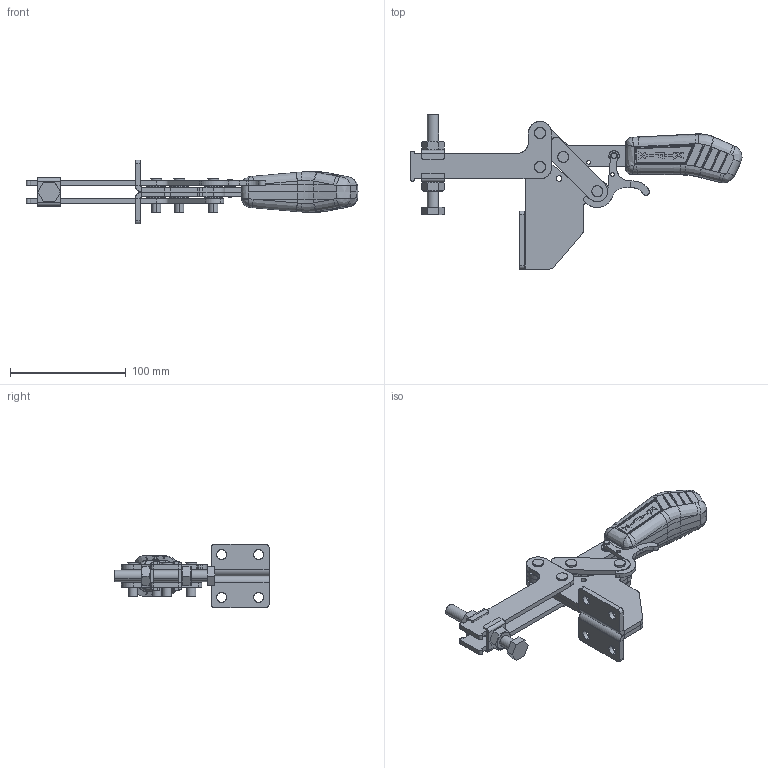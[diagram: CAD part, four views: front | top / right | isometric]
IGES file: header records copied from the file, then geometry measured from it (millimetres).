
Start section: SolidWorks IGES file using analytic representation for surfaces
Global section: file name: C:\Projetos\Grampos\KF-531\KF-531 FL TR\KF-531 FL TR.IGS; native system: SolidWorks 2018; preprocessor: SolidWorks 2018; author: Ricardo; date: 180417.090811; units: millimetre
Bounding box: 287.19 x 133.34 x 55 mm (x, y, z)
Surface area: 96212.9 mm2 (no closed solid volume)
Topology: 0 solids, 0 shells, 866 faces, 10577 edges, 10555 vertices
Faces by surface type: bspline 455, revolution 411
